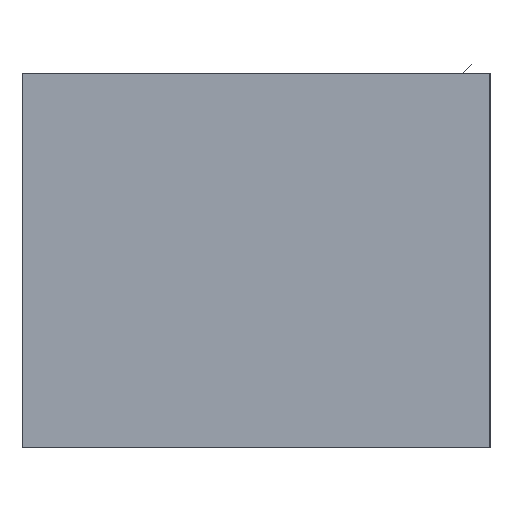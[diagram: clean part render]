
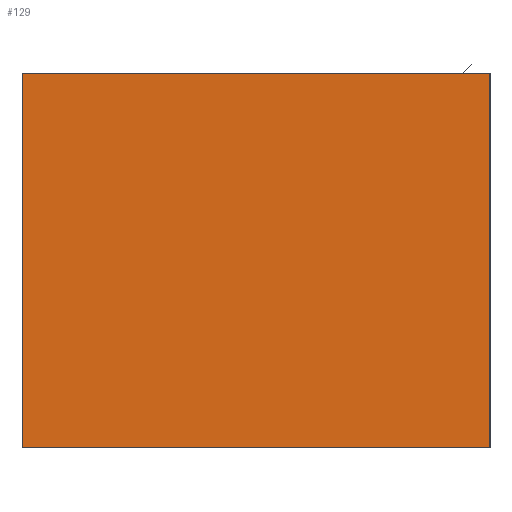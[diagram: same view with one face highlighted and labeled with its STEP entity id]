
A CAD part, left-side view. The second image highlights one B-rep face of the part: STEP entity #129.
In plain terms, the highlighted planar face has unit normal (-1, 0, 0).
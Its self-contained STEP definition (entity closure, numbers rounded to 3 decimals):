
#11 = VERTEX_POINT ( 'NONE', #432 ) ;
#12 = CARTESIAN_POINT ( 'NONE',  ( -50., -50., 1.5 ) ) ;
#27 = VECTOR ( 'NONE', #37, 1000. ) ;
#34 = CARTESIAN_POINT ( 'NONE',  ( -50., -50., 1.5 ) ) ;
#37 = DIRECTION ( 'NONE',  ( 0., 0., 1. ) ) ;
#42 = CARTESIAN_POINT ( 'NONE',  ( -50., 178.062, -78.5 ) ) ;
#60 = EDGE_CURVE ( 'NONE', #413, #375, #325, .T. ) ;
#61 = LINE ( 'NONE', #196, #27 ) ;
#88 = VECTOR ( 'NONE', #340, 1000. ) ;
#94 = CARTESIAN_POINT ( 'NONE',  ( -50., 178.062, 1.5 ) ) ;
#103 = PLANE ( 'NONE',  #334 ) ;
#128 = FACE_OUTER_BOUND ( 'NONE', #407, .T. ) ;
#129 = ADVANCED_FACE ( 'NONE', ( #128 ), #103, .F. ) ;
#136 = EDGE_CURVE ( 'NONE', #11, #413, #61, .T. ) ;
#155 = CARTESIAN_POINT ( 'NONE',  ( -50., 50., 1.5 ) ) ;
#160 = VERTEX_POINT ( 'NONE', #335 ) ;
#169 = VECTOR ( 'NONE', #171, 1000. ) ;
#170 = EDGE_CURVE ( 'NONE', #11, #160, #276, .T. ) ;
#171 = DIRECTION ( 'NONE',  ( 0., -1., 0. ) ) ;
#179 = ORIENTED_EDGE ( 'NONE', *, *, #136, .F. ) ;
#191 = ORIENTED_EDGE ( 'NONE', *, *, #60, .F. ) ;
#196 = CARTESIAN_POINT ( 'NONE',  ( -50., 50., 1.5 ) ) ;
#225 = ORIENTED_EDGE ( 'NONE', *, *, #269, .F. ) ;
#227 = DIRECTION ( 'NONE',  ( 1., 0., 0. ) ) ;
#239 = VECTOR ( 'NONE', #412, 1000. ) ;
#245 = LINE ( 'NONE', #34, #88 ) ;
#269 = EDGE_CURVE ( 'NONE', #375, #160, #245, .T. ) ;
#276 = LINE ( 'NONE', #42, #239 ) ;
#325 = LINE ( 'NONE', #94, #169 ) ;
#334 = AXIS2_PLACEMENT_3D ( 'NONE', #395, #227, #360 ) ;
#335 = CARTESIAN_POINT ( 'NONE',  ( -50., -50., -78.5 ) ) ;
#340 = DIRECTION ( 'NONE',  ( 0., 0., -1. ) ) ;
#360 = DIRECTION ( 'NONE',  ( 0., 0., -1. ) ) ;
#375 = VERTEX_POINT ( 'NONE', #12 ) ;
#382 = ORIENTED_EDGE ( 'NONE', *, *, #170, .T. ) ;
#395 = CARTESIAN_POINT ( 'NONE',  ( -50., 178.062, 1.5 ) ) ;
#407 = EDGE_LOOP ( 'NONE', ( #179, #382, #225, #191 ) ) ;
#412 = DIRECTION ( 'NONE',  ( 0., -1., 0. ) ) ;
#413 = VERTEX_POINT ( 'NONE', #155 ) ;
#432 = CARTESIAN_POINT ( 'NONE',  ( -50., 50., -78.5 ) ) ;
